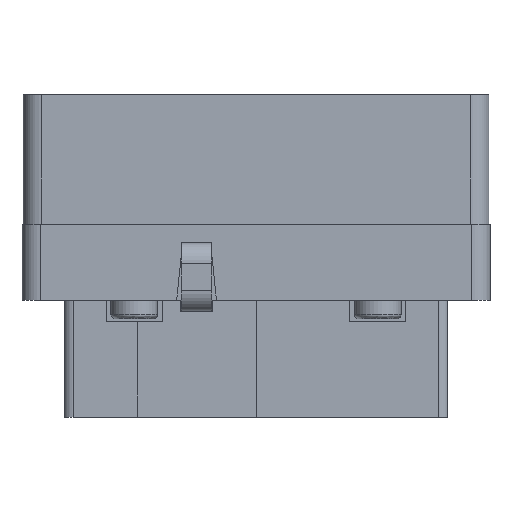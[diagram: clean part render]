
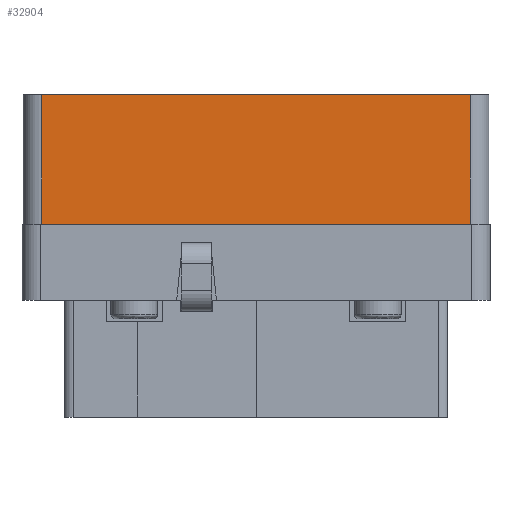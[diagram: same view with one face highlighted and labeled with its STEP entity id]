
A CAD part, front view. The second image highlights one B-rep face of the part: STEP entity #32904.
In plain terms, the highlighted planar face has unit normal (0, -1, 0).
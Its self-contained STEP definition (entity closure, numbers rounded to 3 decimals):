
#118 = EDGE_CURVE ( 'NONE', #13486, #53787, #47390, .T. ) ;
#3119 = EDGE_LOOP ( 'NONE', ( #40438, #28280, #55127, #44368 ) ) ;
#9007 = CARTESIAN_POINT ( 'NONE',  ( -2.384, -6.636, 2.025 ) ) ;
#9213 = DIRECTION ( 'NONE',  ( 0., 0., 1. ) ) ;
#9773 = VERTEX_POINT ( 'NONE', #10298 ) ;
#10298 = CARTESIAN_POINT ( 'NONE',  ( 6.766, -6.636, 0.645 ) ) ;
#13039 = CARTESIAN_POINT ( 'NONE',  ( -2.784, -6.636, 3.405 ) ) ;
#13486 = VERTEX_POINT ( 'NONE', #25001 ) ;
#17594 = CARTESIAN_POINT ( 'NONE',  ( 6.766, -6.636, 0.645 ) ) ;
#17974 = FACE_OUTER_BOUND ( 'NONE', #3119, .T. ) ;
#19472 = VERTEX_POINT ( 'NONE', #46169 ) ;
#19691 = VECTOR ( 'NONE', #41515, 1000. ) ;
#21612 = VECTOR ( 'NONE', #30395, 1000. ) ;
#22372 = PLANE ( 'NONE',  #23046 ) ;
#23046 = AXIS2_PLACEMENT_3D ( 'NONE', #17594, #26950, #55671 ) ;
#25001 = CARTESIAN_POINT ( 'NONE',  ( -2.384, -6.636, 0.645 ) ) ;
#26950 = DIRECTION ( 'NONE',  ( 0., 1., 0. ) ) ;
#28280 = ORIENTED_EDGE ( 'NONE', *, *, #43202, .F. ) ;
#30395 = DIRECTION ( 'NONE',  ( -1., 0., 0. ) ) ;
#32291 = LINE ( 'NONE', #13039, #19691 ) ;
#32904 = ADVANCED_FACE ( 'NONE', ( #17974 ), #22372, .F. ) ;
#33363 = EDGE_CURVE ( 'NONE', #19472, #9773, #39516, .T. ) ;
#33821 = EDGE_CURVE ( 'NONE', #9773, #13486, #56619, .T. ) ;
#36137 = VECTOR ( 'NONE', #9213, 1000. ) ;
#39516 = LINE ( 'NONE', #51029, #56688 ) ;
#40438 = ORIENTED_EDGE ( 'NONE', *, *, #33363, .F. ) ;
#41515 = DIRECTION ( 'NONE',  ( 1., 0., 0. ) ) ;
#43202 = EDGE_CURVE ( 'NONE', #53787, #19472, #32291, .T. ) ;
#44368 = ORIENTED_EDGE ( 'NONE', *, *, #33821, .F. ) ;
#46169 = CARTESIAN_POINT ( 'NONE',  ( 6.766, -6.636, 3.405 ) ) ;
#47390 = LINE ( 'NONE', #9007, #36137 ) ;
#49180 = CARTESIAN_POINT ( 'NONE',  ( -2.384, -6.636, 3.405 ) ) ;
#51029 = CARTESIAN_POINT ( 'NONE',  ( 6.766, -6.636, 2.025 ) ) ;
#53787 = VERTEX_POINT ( 'NONE', #49180 ) ;
#55127 = ORIENTED_EDGE ( 'NONE', *, *, #118, .F. ) ;
#55671 = DIRECTION ( 'NONE',  ( -1., 0., 0. ) ) ;
#55795 = DIRECTION ( 'NONE',  ( 0., 0., -1. ) ) ;
#56619 = LINE ( 'NONE', #58926, #21612 ) ;
#56688 = VECTOR ( 'NONE', #55795, 1000. ) ;
#58926 = CARTESIAN_POINT ( 'NONE',  ( 2.191, -6.636, 0.645 ) ) ;
